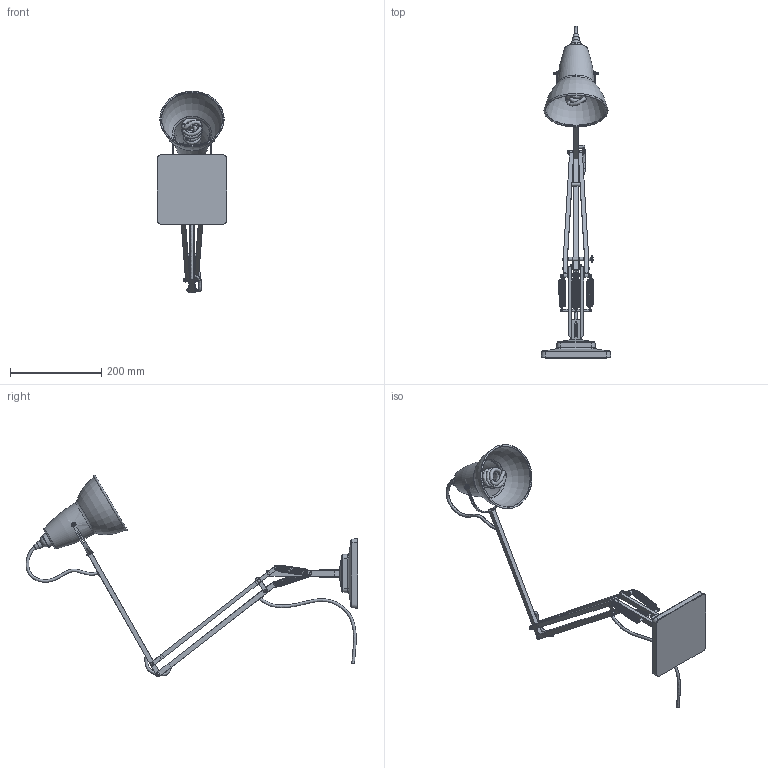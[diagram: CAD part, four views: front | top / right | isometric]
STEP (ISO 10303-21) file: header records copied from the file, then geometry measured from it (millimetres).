
FILE_DESCRIPTION (( 'STEP AP214' ), '1' );
FILE_NAME ('Duo1227_Desk Lamp_Assembly_DF_01.STEP', '2014-10-30T16:53:41', ( '' ), ( '' ), 'SwSTEP 2.0', 'SolidWorks 2014', '' );
FILE_SCHEMA (( 'AUTOMOTIVE_DESIGN' ));
Length unit declared in the file: millimetre
Products named in the file (1): Duo1227_Desk Lamp_Assembly_DF_01
Bounding box: 151.5 x 726.47 x 441.13 mm (x, y, z)
Volume: 881037.6 mm3; surface area: 285169.5 mm2
Topology: 1 solids, 1 shells, 1830 faces, 4460 edges, 2705 vertices
Faces by surface type: plane 769, cylinder 758, bspline 195, torus 63, sphere 44, cone 1
Full cylindrical faces by diameter (mm): 1.1 x1, 2.208 x1, 2.583 x1, 2.8 x4, 3 x8, 3.3 x2, 4 x2, 5 x14, 5.8 x1, 6 x4, 6.304 x2, 7 x8, 8 x10, 9 x5, 10 x3, 11 x1, 13.335 x2, 15 x1, 25 x1, 30 x1, 37.5 x1, 38.1 x1, 135 x1
Entity records: 104800 total; most frequent: CARTESIAN_POINT 63019, DIRECTION 8458, ORIENTED_EDGE 8386, EDGE_CURVE 4193, AXIS2_PLACEMENT_3D 3310, VERTEX_POINT 2633, EDGE_LOOP 2148, FACE_OUTER_BOUND 1994
